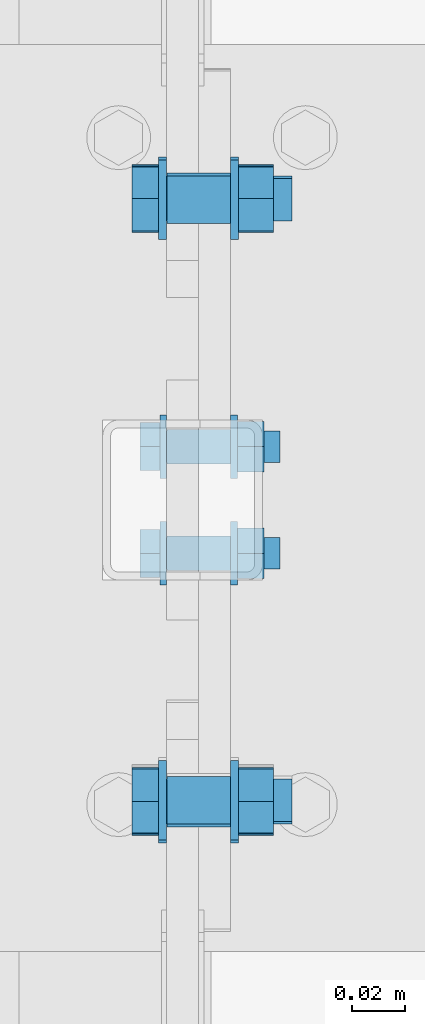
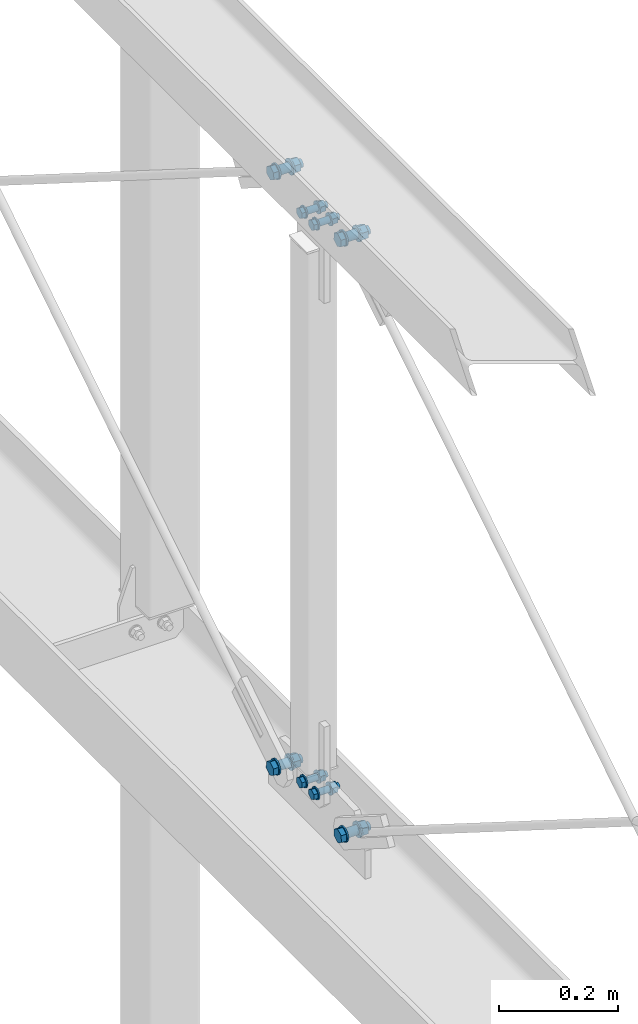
# One storey, part 259 of 271: 6 mechanical fasteners, 5 elements without a shape of their own.
"""IFC2X3 building model written with IfcOpenShell, lengths in millimetres."""

from ifc_helpers import new_model, si_unit, frame, origin_with_axes, origin_2d_with_axis, place, context, subcontext, project, spatial, polyline, circle, outline, extrude, source, transform, mapped, material, type_object, element, aggregate, save


model = new_model("IFC2X3")

# Units and contexts
model_context = context("Model", 3, precision=1e-05, world=origin_with_axes())
body_context = subcontext(model_context, "Body", "Model", "MODEL_VIEW")
ifc_project = project(units=[si_unit("LENGTHUNIT", "METRE", prefix="MILLI"), si_unit("AREAUNIT", "SQUARE_METRE"), si_unit("VOLUMEUNIT", "CUBIC_METRE"), si_unit("MASSUNIT", "GRAM", prefix="KILO"), si_unit("TIMEUNIT", "SECOND"), si_unit("PLANEANGLEUNIT", "RADIAN"), si_unit("SOLIDANGLEUNIT", "STERADIAN"), si_unit("THERMODYNAMICTEMPERATUREUNIT", "DEGREE_CELSIUS"), si_unit("LUMINOUSINTENSITYUNIT", "LUMEN")], contexts=[model_context])

# Site, building, storey
site_placement = place(None, origin_with_axes())
site = spatial("IfcSite", under=ifc_project, at=site_placement, Name="Undefined", CompositionType="ELEMENT")
building_placement = place(site_placement, origin_with_axes())
building = spatial("IfcBuilding", under=site, at=building_placement, Name="Undefined", CompositionType="ELEMENT")
storey_placement = place(building_placement, origin_with_axes())
storey = spatial("IfcBuildingStorey", under=building, at=storey_placement, Name="Undefined", CompositionType="ELEMENT", Elevation=0.0)

# Assembly, mechanical fastener
assembly_1_placement = place(storey_placement, origin_with_axes())
assembly_1 = element("IfcElementAssembly", 1, at=assembly_1_placement, inside=storey, AssemblyPlace="NOTDEFINED", PredefinedType="RIGID_FRAME")
ifc_material = material(Name="Undefined")
mechanical_fastener_type = type_object("IfcMechanicalFastenerType", Name="Bolt assembly")
shared_shape_1 = source(origin_with_axes(), body_context, "Body", "SweptSolid", [
    extrude(circle(Radius=9.0, at=origin_2d_with_axis()), frame((0.0, -6.1, 0.0), z_axis=(0.0, 1.0, 0.0), x_axis=(1.0, 0.0, 0.0)), (0.0, 0.0, 1.0), 12.1),
    extrude(circle(Radius=9.0, at=origin_2d_with_axis()), frame((0.0, -17.9, 0.0), z_axis=(0.0, 1.0, 0.0), x_axis=(1.0, 0.0, 0.0)), (0.0, 0.0, 1.0), 12.0),
    extrude(outline(polyline([(13.85640646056, 0.0), (6.92820323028, 12.0000000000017), (-6.92820323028, 12.0000000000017), (-13.85640646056, 0.0), (-6.92820323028, -12.0000000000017), (6.92820323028, -12.0000000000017), (13.85640646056, 0.0)])), frame((0.0, -31.0, 0.0), z_axis=(0.0, 1.0, 0.0), x_axis=(1.0, 0.0, 0.0)), (0.0, 0.0, 1.0), 10.0),
    extrude(circle(Radius=8.0, at=origin_2d_with_axis()), frame((0.0, -21.0, 0.0), z_axis=(0.0, 1.0, 0.0), x_axis=(1.0, 0.0, 0.0)), (0.0, 0.0, 1.0), 50.0),
    extrude(circle(Radius=15.0, at=origin_2d_with_axis()), frame((0.0, -21.0, 0.0), z_axis=(0.0, 1.0, 0.0), x_axis=(1.0, 0.0, 0.0)), (0.0, 0.0, 1.0), 3.0),
    extrude(circle(Radius=15.0, at=origin_2d_with_axis()), frame((0.0, 6.0, 0.0), z_axis=(0.0, 1.0, 0.0), x_axis=(1.0, 0.0, 0.0)), (0.0, 0.0, 1.0), 3.0),
    extrude(outline(polyline([(13.85640646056, 0.0), (6.92820323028, 12.0000000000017), (-6.92820323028, 12.0000000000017), (-13.85640646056, 0.0), (-6.92820323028, -12.0000000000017), (6.92820323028, -12.0000000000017), (13.85640646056, 0.0)])), frame((0.0, 9.0, 0.0), z_axis=(0.0, 1.0, 0.0), x_axis=(1.0, 0.0, 0.0)), (0.0, 0.0, 1.0), 13.0),
])
mechanical_fastener_1_placement = place(assembly_1_placement, frame((12609.7513741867, 2066.65830803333, 19933.428808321), z_axis=(0.0, -0.533166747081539, 0.846010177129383), x_axis=(0.0, -0.846010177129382, -0.533166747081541)))
mechanical_fastener_1 = element("IfcMechanicalFastener", 2, at=mechanical_fastener_1_placement, type_object=mechanical_fastener_type, material=ifc_material, Name="Bolt assembly", NominalDiameter=16.0, NominalLength=50.0, context=body_context, shape_type="MappedRepresentation", body=[
    mapped(shared_shape_1, transform((0.0, 0.0, 0.0))),
])
aggregate(assembly_1, [mechanical_fastener_1])

assembly_2_placement = place(storey_placement, origin_with_axes())
assembly_2 = element("IfcElementAssembly", 3, at=assembly_2_placement, inside=storey, AssemblyPlace="NOTDEFINED", PredefinedType="RIGID_FRAME")
mechanical_fastener_2_placement = place(assembly_2_placement, frame((12609.7513741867, 2291.72879787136, 19933.4288052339), z_axis=(0.0, -0.533166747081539, -0.846010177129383), x_axis=(0.0, 0.846010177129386, -0.533166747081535)))
mechanical_fastener_2 = element("IfcMechanicalFastener", 4, at=mechanical_fastener_2_placement, type_object=mechanical_fastener_type, material=ifc_material, Name="Bolt assembly", NominalDiameter=16.0, NominalLength=50.0, context=body_context, shape_type="MappedRepresentation", body=[
    mapped(shared_shape_1, transform((0.0, 0.0, 0.0))),
])
aggregate(assembly_2, [mechanical_fastener_2])

assembly_3_placement = place(storey_placement, origin_with_axes())
assembly_3 = element("IfcElementAssembly", 5, at=assembly_3_placement, inside=storey, AssemblyPlace="NOTDEFINED", PredefinedType="RIGID_FRAME")
mechanical_fastener_3_placement = place(assembly_3_placement, frame((12609.7513741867, 2292.76019276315, 18715.9211923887), z_axis=(0.0, 0.533166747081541, -0.846010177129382), x_axis=(0.0, 0.846010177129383, 0.533166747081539)))
mechanical_fastener_3 = element("IfcMechanicalFastener", 6, at=mechanical_fastener_3_placement, type_object=mechanical_fastener_type, material=ifc_material, Name="Bolt assembly", NominalDiameter=16.0, NominalLength=50.0, context=body_context, shape_type="MappedRepresentation", body=[
    mapped(shared_shape_1, transform((0.0, 0.0, 0.0))),
])
aggregate(assembly_3, [mechanical_fastener_3])

assembly_4_placement = place(storey_placement, origin_with_axes())
assembly_4 = element("IfcElementAssembly", 7, at=assembly_4_placement, inside=storey, AssemblyPlace="NOTDEFINED", PredefinedType="RIGID_FRAME")
mechanical_fastener_4_placement = place(assembly_4_placement, frame((12609.7513741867, 2065.62691120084, 18715.9211905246), z_axis=(0.0, 0.533166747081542, 0.846010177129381), x_axis=(0.0, -0.846010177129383, 0.533166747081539)))
mechanical_fastener_4 = element("IfcMechanicalFastener", 8, at=mechanical_fastener_4_placement, type_object=mechanical_fastener_type, material=ifc_material, Name="Bolt assembly", NominalDiameter=16.0, NominalLength=50.0, context=body_context, shape_type="MappedRepresentation", body=[
    mapped(shared_shape_1, transform((0.0, 0.0, 0.0))),
])
aggregate(assembly_4, [mechanical_fastener_4])

# Assembly, mechanical fasteners
assembly_5_placement = place(storey_placement, origin_with_axes())
assembly_5 = element("IfcElementAssembly", 9, at=assembly_5_placement, inside=storey, AssemblyPlace="NOTDEFINED", PredefinedType="RIGID_FRAME")
shared_shape_2 = source(origin_with_axes(), body_context, "Body", "SweptSolid", [
    extrude(circle(Radius=6.5, at=origin_2d_with_axis()), frame((0.0, -6.1, 0.0), z_axis=(0.0, 1.0, 0.0), x_axis=(1.0, 0.0, 0.0)), (0.0, 0.0, 1.0), 12.1),
    extrude(circle(Radius=6.5, at=origin_2d_with_axis()), frame((0.0, -17.9, 0.0), z_axis=(0.0, 1.0, 0.0), x_axis=(1.0, 0.0, 0.0)), (0.0, 0.0, 1.0), 12.0),
    extrude(outline(polyline([(10.39230484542, 0.0), (5.19615242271, 9.00000000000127), (-5.19615242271, 9.00000000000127), (-10.39230484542, 0.0), (-5.19615242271, -9.00000000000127), (5.19615242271, -9.00000000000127), (10.39230484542, 0.0)])), frame((0.0, -28.0, 0.0), z_axis=(0.0, 1.0, 0.0), x_axis=(1.0, 0.0, 0.0)), (0.0, 0.0, 1.0), 7.5),
    extrude(circle(Radius=6.0, at=origin_2d_with_axis()), frame((0.0, -20.5, 0.0), z_axis=(0.0, 1.0, 0.0), x_axis=(1.0, 0.0, 0.0)), (0.0, 0.0, 1.0), 45.0),
    extrude(circle(Radius=12.0, at=origin_2d_with_axis()), frame((0.0, -20.5, 0.0), z_axis=(0.0, 1.0, 0.0), x_axis=(1.0, 0.0, 0.0)), (0.0, 0.0, 1.0), 2.5),
    extrude(circle(Radius=12.0, at=origin_2d_with_axis()), frame((0.0, 6.0, 0.0), z_axis=(0.0, 1.0, 0.0), x_axis=(1.0, 0.0, 0.0)), (0.0, 0.0, 1.0), 2.5),
    extrude(outline(polyline([(10.96965511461, 0.0), (5.484827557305, 9.50000000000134), (-5.484827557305, 9.50000000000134), (-10.96965511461, 0.0), (-5.484827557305, -9.50000000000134), (5.484827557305, -9.50000000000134), (10.96965511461, 0.0)])), frame((0.0, 8.5, 0.0), z_axis=(0.0, 1.0, 0.0), x_axis=(1.0, 0.0, 0.0)), (0.0, 0.0, 1.0), 10.0),
])
mechanical_fastener_5_placement = place(assembly_5_placement, frame((12609.7513741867, 2179.19355050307, 19906.4686765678), z_axis=(0.0, -1.0, 0.0), x_axis=(0.0, 0.0, -1.0)))
mechanical_fastener_5 = element("IfcMechanicalFastener", 10, at=mechanical_fastener_5_placement, type_object=mechanical_fastener_type, material=ifc_material, Name="Bolt assembly", NominalDiameter=12.0, NominalLength=45.0, context=body_context, shape_type="MappedRepresentation", body=[
    mapped(shared_shape_2, transform((0.0, 0.0, -20.0))),
    mapped(shared_shape_2, transform((0.0, 0.0, 20.0))),
])
mechanical_fastener_6_placement = place(assembly_5_placement, frame((12609.7513741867, 2179.19355050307, 18742.649999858), z_axis=(0.0, 1.0, 0.0), x_axis=(0.0, 0.0, 1.0)))
mechanical_fastener_6 = element("IfcMechanicalFastener", 11, at=mechanical_fastener_6_placement, type_object=mechanical_fastener_type, material=ifc_material, Name="Bolt assembly", NominalDiameter=12.0, NominalLength=45.0, context=body_context, shape_type="MappedRepresentation", body=[
    mapped(shared_shape_2, transform((0.0, 0.0, -20.0))),
    mapped(shared_shape_2, transform((0.0, 0.0, 20.0))),
])
aggregate(assembly_5, [mechanical_fastener_5, mechanical_fastener_6])

save(model, "model.ifc")
